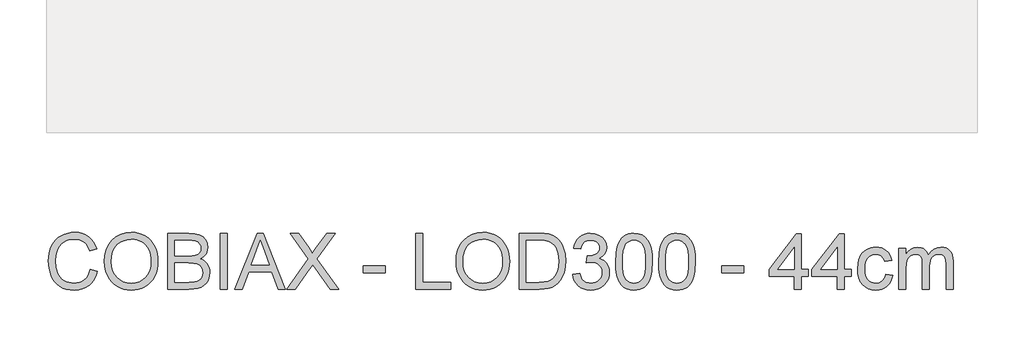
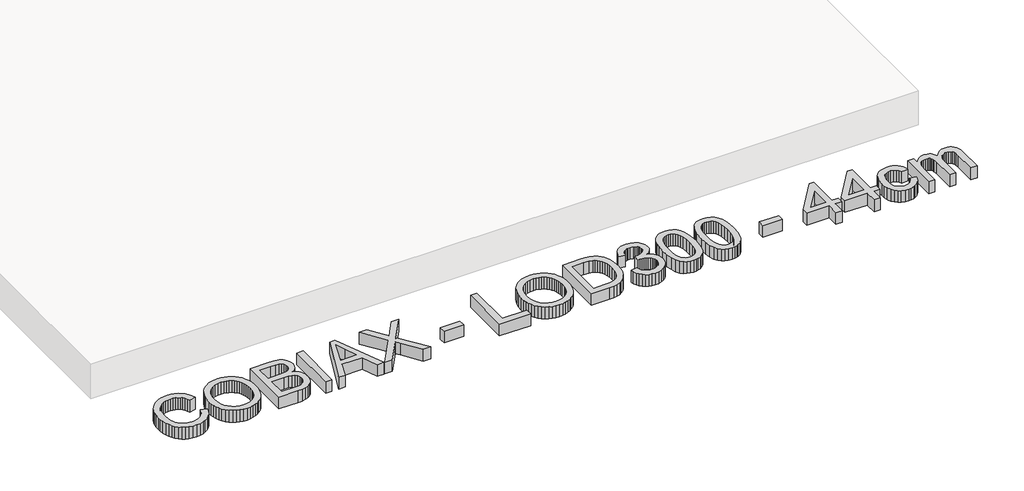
# One storey, part 3 of 18: 1 proxy.
"""IFC4 building model written with IfcOpenShell, lengths in millimetres."""

from ifc_helpers import new_model, si_unit, origin, origin_with_axes, place, context, project, spatial, polyline, outline, extrude, element, save

model = new_model("IFC4")

# Units and contexts
model_context = context("Model", 3, world=origin())
ifc_project = project(units=[si_unit("LENGTHUNIT", "METRE", prefix="MILLI")], contexts=[model_context])

# Site, building, storey
site = spatial("IfcSite", under=ifc_project)
building = spatial("IfcBuilding", under=site)
storey = spatial("IfcBuildingStorey", under=building, Name="COBIAX Slabs", Elevation=0.0)

# Proxy
placement = place(None, origin())
element("IfcBuildingElementProxy", 1, Name="600mm Arial", ObjectType="600mm Arial", at=placement, inside=storey, context=model_context, shape_type="SweptSolid", body=[
    extrude(outline(polyline([(-5201.7846047, -42740.3003464), (-5126.4423721, -42759.7245158), (-5141.35079, -42806.5788864), (-5161.2072206, -42847.5195539), (-5186.0116642, -42882.5465184), (-5215.7641205, -42911.6597798), (-5249.7932051, -42934.5466384), (-5287.4275332, -42950.8943946), (-5328.6671048, -42960.7030483), (-5373.5119201, -42963.9725995), (-5419.4557827, -42961.4985931), (-5460.902288, -42954.0765738), (-5497.8514359, -42941.7065417), (-5530.3032264, -42924.3884968), (-5558.7037164, -42902.3799564), (-5583.4989629, -42875.938438), (-5604.6889658, -42845.0639416), (-5622.2737252, -42809.7564671), (-5636.0830956, -42771.5427249), (-5645.9469316, -42731.9494251), (-5651.8652332, -42690.9765679), (-5653.8380004, -42648.6241532), (-5651.6077158, -42603.1815298), (-5644.916862, -42560.7371446), (-5633.765439, -42521.2909976), (-5618.1534469, -42484.843089), (-5598.4303734, -42451.9958253), (-5574.9457065, -42423.3516135), (-5547.6994462, -42398.9104534), (-5516.6915926, -42378.6723452), (-5482.9752077, -42362.8028356), (-5447.6033539, -42351.4674716), (-5410.5760311, -42344.6662532), (-5371.8932393, -42342.3991804), (-5328.8004621, -42345.3330393), (-5289.2853373, -42354.1346161), (-5253.3478649, -42368.8039106), (-5220.9880449, -42389.340923), (-5192.7393062, -42415.2030273), (-5169.1350776, -42445.8475975), (-5150.1753593, -42481.2746336), (-5135.8601512, -42521.4841357), (-5211.2023838, -42539.436777), (-5223.0665781, -42509.8084809), (-5237.3220054, -42484.4936011), (-5253.9686657, -42463.4921377), (-5273.006559, -42446.8040907), (-5294.5460498, -42434.0891692), (-5318.6975028, -42425.0070824), (-5345.4609179, -42419.5578304), (-5374.8362952, -42417.741413), (-5408.6354535, -42419.755567), (-5439.5467382, -42425.7980287), (-5467.5701492, -42435.8687984), (-5492.7056865, -42449.9678758), (-5514.6360519, -42467.4606647), (-5533.0439473, -42487.7125685), (-5547.9293725, -42510.7235873), (-5559.2923276, -42536.4937211), (-5573.6949077, -42591.6392322), (-5578.4957678, -42648.4770004), (-5572.8119909, -42718.0802739), (-5565.7072699, -42749.3502435), (-5555.7606605, -42778.2657683), (-5542.8112142, -42804.2520328), (-5526.6979829, -42826.7342212), (-5507.4209663, -42845.7123336), (-5484.9801646, -42861.18637), (-5460.4654281, -42873.1931186), (-5434.9666074, -42881.7693677), (-5408.4837022, -42886.9151171), (-5381.0167128, -42888.6303669), (-5348.2614196, -42886.2943162), (-5318.1272857, -42879.2861642), (-5290.614311, -42867.6059108), (-5265.7224955, -42851.2535562), (-5244.0404504, -42830.3026765), (-5226.1567869, -42804.8268484), (-5212.071505, -42774.8260717), (-5201.7846047, -42740.3003464)])), origin_with_axes(), (0.0, 0.0, 1.0), 150.0),
    extrude(outline(polyline([(-5051.1001395, -42661.1321411), (-5046.0785503, -42590.4344186), (-5031.0137825, -42527.8484942), (-5005.9058364, -42473.3743678), (-4989.5856714, -42449.1792288), (-4970.7547117, -42427.0120393), (-4927.6665331, -42389.9939136), (-4878.7474247, -42363.5523952), (-4823.9973868, -42347.6874841), (-4763.4164193, -42342.3991804), (-4722.8666263, -42344.8823839), (-4684.3585785, -42352.3319943), (-4647.8922757, -42364.7480116), (-4613.467718, -42382.1304359), (-4582.0505956, -42403.9550353), (-4554.6065988, -42429.6975779), (-4531.1357275, -42459.3580637), (-4511.6379818, -42492.9364929), (-4496.3156967, -42529.6695101), (-4485.3712073, -42568.7937603), (-4478.8045137, -42610.3092434), (-4476.6156158, -42654.2159595), (-4478.9194768, -42698.7020898), (-4485.8310598, -42740.778593), (-4497.3503648, -42780.4454691), (-4513.4773917, -42817.7027182), (-4533.8304631, -42851.5662559), (-4558.0279014, -42881.0519978), (-4586.0697064, -42906.1599439), (-4617.9558784, -42926.8900944), (-4652.4310198, -42943.1136904), (-4688.2397335, -42954.7019732), (-4725.3820195, -42961.6549429), (-4763.8578777, -42963.9725995), (-4805.1158434, -42961.4112211), (-4844.129729, -42953.7270859), (-4880.8995344, -42940.920194), (-4915.4252597, -42922.9905452), (-4946.8055939, -42900.632517), (-4974.1392261, -42874.5404865), (-4997.4261564, -42844.7144537), (-5016.6663847, -42811.1544187), (-5031.7311524, -42775.2077492), (-5042.4917008, -42738.2218131), (-5048.9480298, -42700.1966104), (-5051.1001395, -42661.1321411)]), holes=[polyline([(-4975.7579069, -42661.867905), (-4971.9917149, -42711.8170829), (-4960.6931392, -42756.1560604), (-4941.8621795, -42794.8848374), (-4915.4988361, -42828.0034141), (-4883.4517158, -42854.5277059), (-4847.5694257, -42873.4736287), (-4807.8519657, -42884.8411823), (-4764.299336, -42888.6303669), (-4720.0017453, -42884.8043941), (-4679.8152359, -42873.3264759), (-4643.7398077, -42854.1966121), (-4611.7754608, -42827.4148029), (-4585.6052554, -42793.5972505), (-4566.9122515, -42753.3601572), (-4555.6964492, -42706.7035232), (-4551.9578484, -42653.6273484), (-4553.5581351, -42619.1476084), (-4558.3589951, -42586.9303426), (-4566.3604285, -42556.9755512), (-4577.5624353, -42529.283234), (-4591.8408552, -42504.2166745), (-4609.0715282, -42482.1391563), (-4629.2544541, -42463.0506793), (-4652.3896331, -42446.9512435), (-4677.7596952, -42434.1719427), (-4704.6472705, -42425.0438706), (-4733.0523591, -42419.5670274), (-4762.9749609, -42417.741413), (-4805.0146759, -42421.2592846), (-4844.0193644, -42431.8128994), (-4879.9890265, -42449.4022573), (-4912.9236621, -42474.0273583), (-4940.4136442, -42506.874622), (-4960.0493457, -42549.1304676), (-4971.8307666, -42600.7948953), (-4975.7579069, -42661.867905)])]), origin_with_axes(), (0.0, 0.0, 1.0), 150.0),
    extrude(outline(polyline([(-4373.020046, -42954.5548204), (-4373.020046, -42351.8169595), (-4143.0202226, -42351.8169595), (-4079.7629135, -42356.2499375), (-4030.3747557, -42369.5488717), (-4010.2975958, -42379.6058457), (-3992.5196984, -42392.0448557), (-3977.0410634, -42406.8659016), (-3963.8616909, -42424.0689834), (-3945.8170791, -42461.7400997), (-3939.8022085, -42501.1770495), (-3944.8605859, -42537.4686084), (-3960.0357182, -42571.5896634), (-3985.43797, -42601.4432873), (-4021.1777058, -42624.9325527), (-3998.438, -42634.6262433), (-3978.4850002, -42647.2262016), (-3961.3187066, -42662.7324277), (-3946.9391192, -42681.1449216), (-3935.576164, -42701.9026632), (-3927.4597675, -42724.4446324), (-3922.5899296, -42748.7708294), (-3920.9666503, -42774.881254), (-3925.3996283, -42816.9117719), (-3938.6985625, -42855.8888693), (-3958.5457961, -42889.0350371), (-3982.6236727, -42913.5727661), (-4012.1094146, -42931.3414665), (-4048.1802442, -42944.1805481), (-4092.013384, -42951.9612523), (-4144.7860562, -42954.5548204), (-4373.020046, -42954.5548204)]), holes=[polyline([(-4297.6778134, -42596.6792155), (-4160.0899472, -42596.6792155), (-4111.9709822, -42595.0605347), (-4079.7445194, -42590.2044924), (-4051.6199409, -42579.0392738), (-4031.4048253, -42562.3190371), (-4019.2095371, -42540.3012997), (-4015.1444411, -42513.243579), (-4018.9336256, -42486.9768045), (-4030.3011793, -42464.0945444), (-4048.7320672, -42446.2338736), (-4073.7112547, -42435.0318668), (-4112.0445586, -42429.1273608), (-4170.5377958, -42427.1591921), (-4297.6778134, -42427.1591921), (-4297.6778134, -42596.6792155)]), polyline([(-4297.6778134, -42879.2125878), (-4143.1673754, -42879.2125878), (-4087.2493121, -42876.2695318), (-4061.2952374, -42869.7396264), (-4039.9396875, -42859.8619948), (-4022.5756574, -42845.7169321), (-4008.5961416, -42826.3847333), (-3999.3806976, -42802.729921), (-3996.3088829, -42775.617018), (-3999.9141265, -42744.1263192), (-4010.7298571, -42717.0502043), (-4029.6205976, -42695.8785955), (-4057.4508705, -42682.1014148), (-4096.8694263, -42674.5414398), (-4150.5250153, -42672.0214481), (-4297.6778134, -42672.0214481), (-4297.6778134, -42879.2125878)])]), origin_with_axes(), (0.0, 0.0, 1.0), 150.0),
    extrude(outline(polyline([(-3807.9533014, -42954.5548204), (-3807.9533014, -42351.8169595), (-3732.6110688, -42351.8169595), (-3732.6110688, -42954.5548204), (-3807.9533014, -42954.5548204)])), origin_with_axes(), (0.0, 0.0, 1.0), 150.0),
    extrude(outline(polyline([(-3652.1184882, -42954.5548204), (-3411.5236634, -42351.8169595), (-3347.3650434, -42351.8169595), (-3106.7702186, -42954.5548204), (-3186.3798823, -42954.5548204), (-3255.3945446, -42766.1992389), (-3503.641315, -42766.1992389), (-3572.5088245, -42954.5548204), (-3652.1184882, -42954.5548204)]), holes=[polyline([(-3475.9765889, -42690.8570063), (-3282.9121179, -42690.8570063), (-3337.2115004, -42542.6741386), (-3379.4443534, -42427.1591921), (-3416.9683169, -42529.7246924), (-3475.9765889, -42690.8570063)])]), origin_with_axes(), (0.0, 0.0, 1.0), 150.0),
    extrude(outline(polyline([(-3092.2020916, -42954.5548204), (-2859.8478234, -42626.1097751), (-3054.5309753, -42351.8169595), (-2964.1791572, -42351.8169595), (-2854.5503227, -42506.1802447), (-2828.3939128, -42545.2861008), (-2817.6149704, -42566.3657391), (-2774.3520477, -42505.1501751), (-2665.9004356, -42351.8169595), (-2574.2242424, -42351.8169595), (-2768.9073942, -42626.9926919), (-2536.5531261, -42954.5548204), (-2626.9049441, -42954.5548204), (-2781.7096876, -42736.1800681), (-2813.9361504, -42690.8570063), (-2849.3999748, -42740.594652), (-3000.5258984, -42954.5548204), (-3092.2020916, -42954.5548204)])), origin_with_axes(), (0.0, 0.0, 1.0), 150.0),
    extrude(outline(polyline([(-2272.8553119, -42775.617018), (-2272.8553119, -42700.2747853), (-2037.410835, -42700.2747853), (-2037.410835, -42775.617018), (-2272.8553119, -42775.617018)])), origin_with_axes(), (0.0, 0.0, 1.0), 150.0),
    extrude(outline(polyline([(-1707.7885673, -42954.5548204), (-1707.7885673, -42351.8169595), (-1632.4463347, -42351.8169595), (-1632.4463347, -42879.2125878), (-1331.0774043, -42879.2125878), (-1331.0774043, -42954.5548204), (-1707.7885673, -42954.5548204)])), origin_with_axes(), (0.0, 0.0, 1.0), 150.0),
    extrude(outline(polyline([(-1274.5707298, -42661.1321411), (-1269.5491406, -42590.4344186), (-1254.4843729, -42527.8484942), (-1229.3764267, -42473.3743678), (-1213.0562617, -42449.1792288), (-1194.2253021, -42427.0120393), (-1151.1371234, -42389.9939136), (-1102.2180151, -42363.5523952), (-1047.4679771, -42347.6874841), (-986.8870096, -42342.3991804), (-946.3372167, -42344.8823839), (-907.8291688, -42352.3319943), (-871.362866, -42364.7480116), (-836.9383083, -42382.1304359), (-805.5211859, -42403.9550353), (-778.0771891, -42429.6975779), (-754.6063178, -42459.3580637), (-735.1085721, -42492.9364929), (-719.786287, -42529.6695101), (-708.8417976, -42568.7937603), (-702.275104, -42610.3092434), (-700.0862061, -42654.2159595), (-702.3900671, -42698.7020898), (-709.3016501, -42740.778593), (-720.8209551, -42780.4454691), (-736.947982, -42817.7027182), (-757.3010534, -42851.5662559), (-781.4984917, -42881.0519978), (-809.5402967, -42906.1599439), (-841.4264687, -42926.8900944), (-875.9016102, -42943.1136904), (-911.7103239, -42954.7019732), (-948.8526098, -42961.6549429), (-987.328468, -42963.9725995), (-1028.5864337, -42961.4112211), (-1067.6003193, -42953.7270859), (-1104.3701247, -42940.920194), (-1138.89585, -42922.9905452), (-1170.2761842, -42900.632517), (-1197.6098164, -42874.5404865), (-1220.8967467, -42844.7144537), (-1240.1369751, -42811.1544187), (-1255.2017428, -42775.2077492), (-1265.9622911, -42738.2218131), (-1272.4186201, -42700.1966104), (-1274.5707298, -42661.1321411)]), holes=[polyline([(-1199.2284972, -42661.867905), (-1195.4623053, -42711.8170829), (-1184.1637295, -42756.1560604), (-1165.3327699, -42794.8848374), (-1138.9694264, -42828.0034141), (-1106.9223061, -42854.5277059), (-1071.040016, -42873.4736287), (-1031.3225561, -42884.8411823), (-987.7699264, -42888.6303669), (-943.4723356, -42884.8043941), (-903.2858262, -42873.3264759), (-867.210398, -42854.1966121), (-835.2460512, -42827.4148029), (-809.0758457, -42793.5972505), (-790.3828418, -42753.3601572), (-779.1670395, -42706.7035232), (-775.4284387, -42653.6273484), (-777.0287254, -42619.1476084), (-781.8295855, -42586.9303426), (-789.8310189, -42556.9755512), (-801.0330256, -42529.283234), (-815.3114455, -42504.2166745), (-832.5421185, -42482.1391563), (-852.7250445, -42463.0506793), (-875.8602234, -42446.9512435), (-901.2302855, -42434.1719427), (-928.1178608, -42425.0438706), (-956.5229494, -42419.5670274), (-986.4455512, -42417.741413), (-1028.4852662, -42421.2592846), (-1067.4899547, -42431.8128994), (-1103.4596168, -42449.4022573), (-1136.3942524, -42474.0273583), (-1163.8842345, -42506.874622), (-1183.519936, -42549.1304676), (-1195.3013569, -42600.7948953), (-1199.2284972, -42661.867905)])]), origin_with_axes(), (0.0, 0.0, 1.0), 150.0),
    extrude(outline(polyline([(-596.4906363, -42954.5548204), (-596.4906363, -42351.8169595), (-388.5637326, -42351.8169595), (-326.4284636, -42353.9874633), (-280.9950372, -42360.4989746), (-232.9496487, -42377.2376054), (-192.4090528, -42403.6147444), (-170.0694186, -42425.1726293), (-150.7280227, -42449.5264174), (-134.3848651, -42476.6761087), (-121.0399457, -42506.6217031), (-110.6748705, -42539.0872892), (-103.2712454, -42573.7969554), (-97.3483452, -42649.9485284), (-101.358259, -42714.6405773), (-113.3880002, -42771.570316), (-131.7085236, -42820.0387689), (-154.5907837, -42859.3469601), (-180.9311345, -42890.3778063), (-209.6259302, -42914.0142245), (-242.5697628, -42931.5438016), (-281.6572248, -42944.2541245), (-326.9618925, -42951.9796464), (-378.5573423, -42954.5548204), (-596.4906363, -42954.5548204)]), holes=[polyline([(-521.1484037, -42879.2125878), (-387.8279686, -42879.2125878), (-332.6824575, -42876.490261), (-290.8542747, -42868.3232807), (-259.2899995, -42855.1898935), (-234.9362114, -42837.5683459), (-208.7614075, -42804.9556071), (-189.0981148, -42762.7411481), (-176.7924621, -42710.7410281), (-172.6905778, -42648.771306), (-174.7001332, -42605.0301368), (-180.7287994, -42566.6600447), (-190.7765764, -42533.6610297), (-204.8434642, -42506.0330919), (-221.7890286, -42483.1508318), (-240.4728355, -42464.38885), (-260.8948847, -42449.7471466), (-283.0551764, -42439.2257216), (-326.3916754, -42430.1758245), (-389.8881078, -42427.1591921), (-521.1484037, -42427.1591921), (-521.1484037, -42879.2125878)])]), origin_with_axes(), (0.0, 0.0, 1.0), 150.0),
    extrude(outline(polyline([(-22.0061126, -42794.4525761), (53.33612, -42785.034797), (70.2035095, -42832.3812098), (81.5756616, -42850.2878659), (94.9067854, -42864.3501552), (110.5003835, -42874.9727478), (128.6599585, -42882.5603139), (149.3855104, -42887.1128536), (172.6770392, -42888.6303669), (199.9738833, -42886.5426365), (224.3276713, -42880.2794456), (245.7384035, -42869.840794), (264.2060796, -42855.2266817), (279.0777093, -42837.5315577), (289.7003019, -42817.849871), (296.0738575, -42796.1816215), (298.198376, -42772.5268092), (296.0922516, -42749.9986355), (289.7738783, -42729.5030099), (279.2432562, -42711.0399322), (264.5003852, -42694.6094026), (246.5109557, -42681.121929), (226.2406577, -42671.4880192), (203.6894914, -42665.7076734), (178.8574567, -42663.7808914), (155.0554917, -42665.8410306), (126.0296022, -42672.0214481), (134.4173117, -42596.6792155), (146.4838412, -42597.5621323), (191.622962, -42592.154267), (231.9796168, -42575.930671), (248.5894889, -42563.6618064), (260.4536833, -42548.4866741), (267.5721999, -42530.4052741), (269.9450388, -42509.4176062), (268.2251904, -42492.3800713), (263.0656454, -42476.8784438), (254.4664038, -42462.9127235), (242.4274655, -42450.4829106), (227.6753975, -42440.2787838), (210.9367667, -42432.9901217), (171.4998168, -42427.1591921), (150.8432428, -42428.6307201), (131.9892906, -42433.045304), (114.9379601, -42440.4029439), (99.6892514, -42450.7036398), (86.6202435, -42463.9473916), (76.1080155, -42480.1341994), (68.1525673, -42499.2640632), (62.7538991, -42521.3369829), (-12.5883335, -42511.9192038), (-3.6579981, -42475.9495417), (9.5949508, -42444.2657049), (27.1705131, -42416.8676933), (49.0686888, -42393.755507), (74.5996993, -42375.4073924), (103.0737657, -42362.3015964), (134.4908881, -42354.4381187), (168.8510665, -42351.8169595), (216.2158734, -42356.9857015), (259.7179193, -42372.4919276), (296.3957542, -42396.9560803), (323.2879281, -42428.9986021), (339.7874355, -42465.9155603), (345.2872714, -42505.0030223), (340.063347, -42541.4233398), (324.391574, -42574.459143), (298.4926816, -42602.6021156), (262.5873988, -42624.3439415), (287.695345, -42632.1982221), (309.7498706, -42643.4002289), (328.7509757, -42657.9499618), (344.6986602, -42675.8474209), (357.3170126, -42696.6511477), (366.3301215, -42719.9196839), (371.7379868, -42745.6530294), (373.5406086, -42773.8511844), (369.935365, -42812.0741237), (359.1196344, -42847.2804306), (341.0934166, -42879.4701052), (315.8567117, -42908.6431474), (285.110974, -42932.8497827), (250.5576576, -42950.1402365), (212.1967626, -42960.5145087), (170.0282889, -42963.9725995), (131.9157142, -42961.0203465), (97.1876538, -42952.1635874), (65.8441078, -42937.4023224), (37.8850762, -42916.7365513), (14.4417961, -42891.3802848), (-3.3544955, -42862.5475334), (-15.5037984, -42830.2382972), (-22.0061126, -42794.4525761)])), origin_with_axes(), (0.0, 0.0, 1.0), 150.0),
    extrude(outline(polyline([(439.4650621, -42658.0419323), (445.0016862, -42561.5648791), (451.9224662, -42520.6518027), (461.6115582, -42484.6223598), (474.0275756, -42453.1822448), (489.1291315, -42426.037152), (506.9162259, -42403.1870816), (527.388859, -42384.6320335), (550.6160084, -42370.2754386), (576.6666522, -42360.020728), (605.5407903, -42353.8679016), (637.2384227, -42351.8169595), (683.6651305, -42356.6730018), (725.235796, -42371.2411289), (760.0006445, -42394.9511234), (786.0099016, -42427.2327685), (805.6548001, -42467.8101526), (821.3265731, -42516.4073642), (831.5904808, -42578.1195688), (835.0117833, -42658.0419323), (829.5303416, -42753.9671625), (822.6785395, -42794.7422832), (813.0860164, -42830.7257408), (800.7665681, -42862.1796514), (785.7339901, -42889.3661309), (767.9882823, -42912.2851792), (747.5294449, -42930.9367963), (724.2747043, -42945.3899602), (698.141287, -42955.7136487), (669.1291932, -42961.9078618), (637.2384227, -42963.9725995), (595.7413337, -42960.38575), (558.9531342, -42949.6252017), (526.8738242, -42931.6909544), (499.5034037, -42906.5830082), (473.2366293, -42861.1955671), (454.4746475, -42804.6429074), (443.2174585, -42736.9250291), (439.4650621, -42658.0419323)]), holes=[polyline([(514.8072947, -42657.8947795), (517.0145867, -42723.3915702), (523.6364626, -42776.4079642), (534.6729225, -42816.9439616), (550.1239663, -42844.9995622), (568.8123716, -42864.0880393), (589.5609162, -42877.7226657), (612.3695999, -42885.9034416), (637.2384227, -42888.6303669), (662.1072456, -42885.8942445), (684.9159293, -42877.6858775), (705.6644738, -42864.0052658), (724.3528792, -42844.8524094), (739.803923, -42816.7508235), (750.8403828, -42776.2240232), (757.4622588, -42723.2720086), (759.6695507, -42657.8947795), (757.5358352, -42594.1316327), (751.1346884, -42542.0487392), (740.4661106, -42501.6460991), (725.5301016, -42472.9237123), (707.1543959, -42452.9017347), (686.1667281, -42438.6003222), (662.5670981, -42430.0194746), (636.3555059, -42427.1591921), (611.6154418, -42429.6791838), (589.1930342, -42437.2391588), (569.0882831, -42449.8391171), (551.3011887, -42467.4790588), (535.3351101, -42498.7490284), (523.9307682, -42540.908305), (517.0881631, -42593.9568887), (514.8072947, -42657.8947795)])]), origin_with_axes(), (0.0, 0.0, 1.0), 150.0),
    extrude(outline(polyline([(900.9362369, -42658.0419323), (906.4728609, -42561.5648791), (913.3936409, -42520.6518027), (923.082733, -42484.6223598), (935.4987503, -42453.1822448), (950.6003062, -42426.037152), (968.3874007, -42403.1870816), (988.8600337, -42384.6320335), (1012.0871832, -42370.2754386), (1038.137827, -42360.020728), (1067.0119651, -42353.8679016), (1098.7095975, -42351.8169595), (1145.1363053, -42356.6730018), (1186.7069707, -42371.2411289), (1221.4718193, -42394.9511234), (1247.4810763, -42427.2327685), (1267.1259749, -42467.8101526), (1282.7977479, -42516.4073642), (1293.0616555, -42578.1195688), (1296.4829581, -42658.0419323), (1291.0015164, -42753.9671625), (1284.1497142, -42794.7422832), (1274.5571912, -42830.7257408), (1262.2377429, -42862.1796514), (1247.2051648, -42889.3661309), (1229.4594571, -42912.2851792), (1209.0006196, -42930.9367963), (1185.745879, -42945.3899602), (1159.6124618, -42955.7136487), (1130.6003679, -42961.9078618), (1098.7095975, -42963.9725995), (1057.2125084, -42960.38575), (1020.4243089, -42949.6252017), (988.3449989, -42931.6909544), (960.9745785, -42906.5830082), (934.707804, -42861.1955671), (915.9458223, -42804.6429074), (904.6886332, -42736.9250291), (900.9362369, -42658.0419323)]), holes=[polyline([(976.2784695, -42657.8947795), (978.4857615, -42723.3915702), (985.1076374, -42776.4079642), (996.1440972, -42816.9439616), (1011.595141, -42844.9995622), (1030.2835464, -42864.0880393), (1051.0320909, -42877.7226657), (1073.8407746, -42885.9034416), (1098.7095975, -42888.6303669), (1123.5784204, -42885.8942445), (1146.3871041, -42877.6858775), (1167.1356486, -42864.0052658), (1185.8240539, -42844.8524094), (1201.2750977, -42816.7508235), (1212.3115576, -42776.2240232), (1218.9334335, -42723.2720086), (1221.1407255, -42657.8947795), (1219.0070099, -42594.1316327), (1212.6058632, -42542.0487392), (1201.9372853, -42501.6460991), (1187.0012763, -42472.9237123), (1168.6255707, -42452.9017347), (1147.6379028, -42438.6003222), (1124.0382729, -42430.0194746), (1097.8266807, -42427.1591921), (1073.0866165, -42429.6791838), (1050.6642089, -42437.2391588), (1030.5594579, -42449.8391171), (1012.7723634, -42467.4790588), (996.8062848, -42498.7490284), (985.401943, -42540.908305), (978.5593379, -42593.9568887), (976.2784695, -42657.8947795)])]), origin_with_axes(), (0.0, 0.0, 1.0), 150.0),
    extrude(outline(polyline([(1579.0163304, -42775.617018), (1579.0163304, -42700.2747853), (1814.4608073, -42700.2747853), (1814.4608073, -42775.617018), (1579.0163304, -42775.617018)])), origin_with_axes(), (0.0, 0.0, 1.0), 150.0),
    extrude(outline(polyline([(2360.6919937, -42954.5548204), (2360.6919937, -42813.2881343), (2087.5764005, -42813.2881343), (2087.5764005, -42737.9459016), (2379.5275519, -42361.2347386), (2436.0342264, -42361.2347386), (2436.0342264, -42737.9459016), (2511.376459, -42737.9459016), (2511.376459, -42813.2881343), (2436.0342264, -42813.2881343), (2436.0342264, -42954.5548204), (2360.6919937, -42954.5548204)]), holes=[polyline([(2360.6919937, -42737.9459016), (2360.6919937, -42505.1501751), (2180.2826633, -42737.9459016), (2360.6919937, -42737.9459016)])]), origin_with_axes(), (0.0, 0.0, 1.0), 150.0),
    extrude(outline(polyline([(2822.1631685, -42954.5548204), (2822.1631685, -42813.2881343), (2549.0475753, -42813.2881343), (2549.0475753, -42737.9459016), (2840.9987266, -42361.2347386), (2897.5054011, -42361.2347386), (2897.5054011, -42737.9459016), (2972.8476337, -42737.9459016), (2972.8476337, -42813.2881343), (2897.5054011, -42813.2881343), (2897.5054011, -42954.5548204), (2822.1631685, -42954.5548204)]), holes=[polyline([(2822.1631685, -42737.9459016), (2822.1631685, -42505.1501751), (2641.7538381, -42737.9459016), (2822.1631685, -42737.9459016)])]), origin_with_axes(), (0.0, 0.0, 1.0), 150.0),
    extrude(outline(polyline([(3340.1410177, -42794.4525761), (3415.4832503, -42803.8703552), (3407.2886789, -42839.4215515), (3394.4771884, -42870.8800606), (3377.0487789, -42898.2458825), (3355.0034503, -42921.5190172), (3329.2701047, -42940.0924595), (3300.7776442, -42953.3592039), (3269.5260687, -42961.3192506), (3235.5153783, -42963.9725995), (3193.2595326, -42960.2707869), (3155.3722856, -42949.1653492), (3121.8536373, -42930.6562863), (3092.7035877, -42904.7435983), (3069.1085563, -42871.9147287), (3052.2549624, -42832.6571213), (3042.142806, -42786.970776), (3038.7720873, -42734.8556929), (3044.5294405, -42667.8091993), (3051.726132, -42637.6382771), (3061.8015001, -42609.7022381), (3074.8245228, -42584.5621023), (3090.8641778, -42562.7788896), (3109.9204651, -42544.3526002), (3131.9933848, -42529.283234), (3156.085057, -42517.5661924), (3181.1976017, -42509.196877), (3207.3310189, -42504.1752878), (3234.4853087, -42502.5014247), (3267.9119865, -42504.8006872), (3298.1472879, -42511.6984746), (3325.1912131, -42523.194787), (3349.043762, -42539.2896243), (3369.3002643, -42559.6151045), (3385.55605, -42583.8033457), (3397.811119, -42611.8543478), (3406.0654712, -42643.7681109), (3330.7232386, -42653.18589), (3317.0564225, -42620.3156337), (3295.7744491, -42596.7527919), (3268.0545407, -42582.570941), (3235.0739199, -42577.8436573), (3209.4739315, -42580.170511), (3186.3847378, -42587.1510718), (3165.8063387, -42598.7853399), (3147.7387342, -42615.0733153), (3133.0280529, -42636.3920769), (3122.5204235, -42663.1187038), (3116.2158458, -42695.2531961), (3114.1143199, -42732.7955537), (3116.1698605, -42770.9035299), (3122.3364825, -42803.4105027), (3132.6141857, -42830.3164721), (3147.0029702, -42851.6214382), (3164.7118898, -42867.8128445), (3184.949998, -42879.3781347), (3207.717295, -42886.3173088), (3233.0137807, -42888.6303669), (3272.0276663, -42882.8546195), (3288.8996543, -42875.6349354), (3304.0150058, -42865.5273776), (3316.9506564, -42852.4215815), (3327.283542, -42836.2071826), (3335.0136624, -42816.8841808), (3340.1410177, -42794.4525761)])), origin_with_axes(), (0.0, 0.0, 1.0), 150.0),
    extrude(outline(polyline([(3481.4077038, -42954.5548204), (3481.4077038, -42511.9192038), (3556.7499365, -42511.9192038), (3556.7499365, -42584.7598389), (3579.4114674, -42551.3009714), (3608.5477214, -42525.0893792), (3643.1654171, -42508.1484134), (3682.2712732, -42502.5014247), (3724.1730325, -42508.258778), (3742.0061122, -42515.4554695), (3757.7606586, -42525.5308376), (3782.8502107, -42553.1771696), (3799.2577477, -42590.0573396), (3826.7201386, -42551.7516268), (3858.0452905, -42524.3904034), (3893.2332033, -42507.9736694), (3932.2838771, -42502.5014247), (3962.4456022, -42504.7776946), (3988.9193103, -42511.6065041), (4011.7050014, -42522.9878533), (4030.8026754, -42538.9217423), (4045.8996328, -42559.5921119), (4056.6831738, -42585.1829031), (4063.1532984, -42615.6941161), (4065.3100066, -42651.1257508), (4065.3100066, -42954.5548204), (3989.967774, -42954.5548204), (3989.967774, -42683.4993664), (3988.2203345, -42645.9202206), (3982.9780161, -42620.5915452), (3973.1555668, -42603.2459091), (3957.6677348, -42589.6158812), (3937.7469248, -42580.7867133), (3914.6255414, -42577.8436573), (3893.2745901, -42579.7290526), (3873.809034, -42585.3852382), (3856.2288732, -42594.8122144), (3840.5341075, -42608.0099809), (3827.626048, -42625.3648141), (3818.4060055, -42647.2629898), (3812.87398, -42673.7045082), (3811.0299715, -42704.6893693), (3811.0299715, -42954.5548204), (3735.6877389, -42954.5548204), (3735.6877389, -42675.1116569), (3731.3283373, -42632.5109218), (3725.8790852, -42615.7906851), (3718.2501323, -42602.123869), (3708.137976, -42591.5012764), (3695.2391135, -42583.9137103), (3679.553545, -42579.3611706), (3661.0812703, -42577.8436573), (3632.0553809, -42581.8903593), (3605.3103598, -42594.0304651), (3583.2374401, -42613.9696693), (3568.2278547, -42641.4136661), (3559.619416, -42679.4894526), (3556.7499365, -42731.3240257), (3556.7499365, -42954.5548204), (3481.4077038, -42954.5548204)])), origin_with_axes(), (0.0, 0.0, 1.0), 150.0),
])

save(model, "model.ifc")
